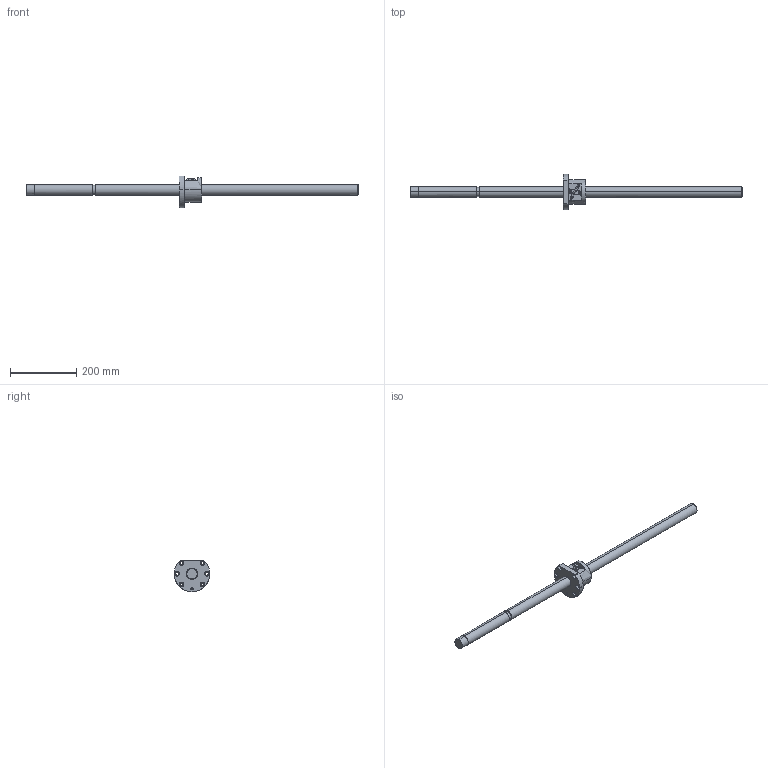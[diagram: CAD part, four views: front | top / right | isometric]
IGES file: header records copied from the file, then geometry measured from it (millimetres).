
Global section: file name: No Iges File Name specified; native system: AutoDesk Inventor R10; preprocessor: AutoDesk Inventor Iges Exporter R10; author: No Author specified; organization: No Organization specified; date: 20101224.142454; units: millimetre
Bounding box: 1000 x 108 x 95 mm (x, y, z)
Surface area: 146675.1 mm2 (no closed solid volume)
Topology: 0 solids, 0 shells, 134 faces, 1002 edges, 1000 vertices
Faces by surface type: bspline 134
